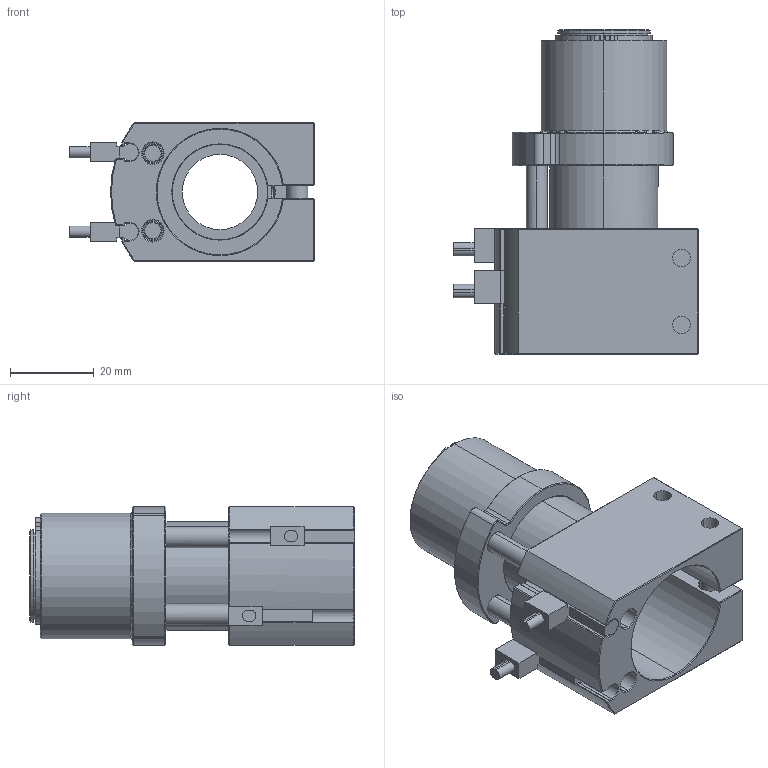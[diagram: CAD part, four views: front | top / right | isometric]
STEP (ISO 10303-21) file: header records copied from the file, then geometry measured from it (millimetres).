
FILE_DESCRIPTION (( 'STEP AP203' ), '1' );
FILE_NAME ('GSP30-30C缓冲支架.STEP', '2023-12-27T09:02:41', ( '微软用户' ), ( '微软中国' ), 'SwSTEP 2.0', 'SolidWorks 2018', '' );
FILE_SCHEMA (( 'CONFIG_CONTROL_DESIGN' ));
Products named in the file (1): GSP30-30C遣喳盓殤
Bounding box: 58.65 x 77.5 x 33 mm (x, y, z)
Volume: 45989.4 mm3; surface area: 27637.4 mm2
Topology: 7 solids, 7 shells, 481 faces, 1191 edges, 719 vertices
Faces by surface type: plane 223, cylinder 136, cone 95, bspline 17, torus 10
Entity records: 72839 total; most frequent: CARTESIAN_POINT 61724, ORIENTED_EDGE 2374, DIRECTION 2205, EDGE_CURVE 1187, AXIS2_PLACEMENT_3D 849, VERTEX_POINT 719, EDGE_LOOP 522, VECTOR 507
